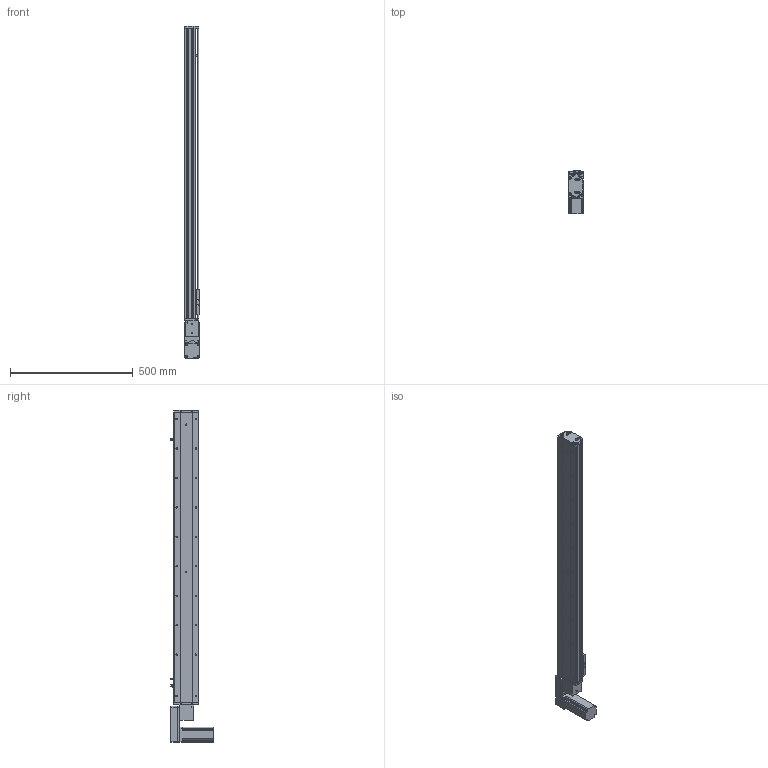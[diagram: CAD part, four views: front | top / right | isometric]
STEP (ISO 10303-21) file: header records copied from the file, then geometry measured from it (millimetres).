
FILE_DESCRIPTION (( 'STEP AP214' ), '1' );
FILE_NAME ('KSD100B-S1000-MLB-CM.STEP', '2019-08-31T01:46:45', ( '微软用户' ), ( '微软中国' ), 'SwSTEP 2.0', 'SolidWorks 2014', '' );
FILE_SCHEMA (( 'AUTOMOTIVE_DESIGN' ));
Length unit declared in the file: millimetre
Products named in the file (12): 100宽马达安装板同步带左; 100宽同步带安装板半封闭; 100宽马达安装板同步带; 100遵傷啣肮祭湍; 100宽底板半封闭同步带1000行程; KSD100B-S1000-MLB-CM; 悵誘欶奻狟殏; 100宽马达安装板连板上下折丝杆同步带; 台达ECMA－C20604AS伺服电机; U倰嫖萇EEㄜSX672; 覜茼え100遵圉猾敕; 100宽防尘板1000行程-同步带
Assembly tree (13 placements, depth 2):
  KSD100B-S1000-MLB-CM
    100宽底板半封闭同步带1000行程
    100遵傷啣肮祭湍
    100宽马达安装板同步带
    100宽同步带安装板半封闭
    100宽马达安装板同步带左
    100宽防尘板1000行程-同步带
    覜茼え100遵圉猾敕
    U倰嫖萇EEㄜSX672  x3
    台达ECMA－C20604AS伺服电机
    100宽马达安装板连板上下折丝杆同步带
    悵誘欶奻狟殏
Bounding box: 61 x 174.7 x 1353 mm (x, y, z)
Volume: 2884008.5 mm3; surface area: 957367.4 mm2
Topology: 14 solids, 14 shells, 1469 faces, 4132 edges, 2627 vertices
Faces by surface type: cylinder 739, plane 591, cone 139
Entity records: 52201 total; most frequent: CARTESIAN_POINT 10320, DIRECTION 7168, ORIENTED_EDGE 6892, EDGE_CURVE 3446, AXIS2_PLACEMENT_3D 2621, VERTEX_POINT 2251, VECTOR 1926, LINE 1926
